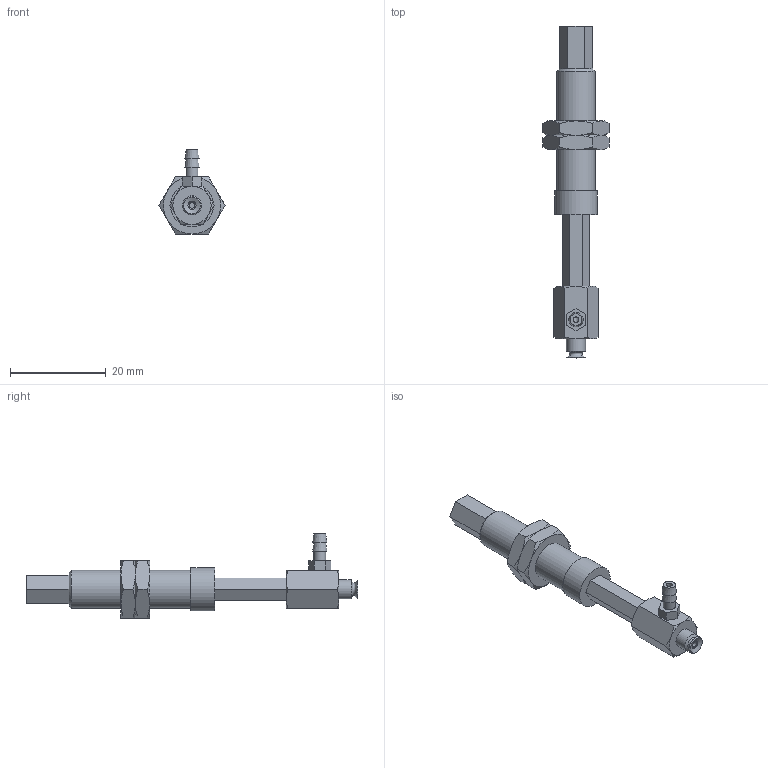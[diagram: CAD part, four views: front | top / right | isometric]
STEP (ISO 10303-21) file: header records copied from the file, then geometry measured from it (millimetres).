
FILE_DESCRIPTION(('STEP AP203'),'1');
FILE_NAME('-T.stp','2025-04-10T02:37:44',(' '),(' '),'Spatial InterOp 3D',' ',' ');
FILE_SCHEMA(('CONFIG_CONTROL_DESIGN'));
Length unit declared in the file: millimetre
Products named in the file (7): BNABPFYH-3.5A-15-※-T; CONNECTOR-H-3.5A-15; Nut-3.5A-15-h; NAPFTH-3.5A-15-FBODY; NAPFTH-3.5A-15-MBODY; BPFG-3.5A-※; T (2)
Assembly tree (7 placements, depth 2):
  BNABPFYH-3.5A-15-※-T
    CONNECTOR-H-3.5A-15
    Nut-3.5A-15-h  x2
    NAPFTH-3.5A-15-FBODY
    NAPFTH-3.5A-15-MBODY
    BPFG-3.5A-※
    T (2)
Bounding box: 13.86 x 69.5 x 17.6 mm (x, y, z)
Volume: 3286.7 mm3; surface area: 4041.3 mm2
Topology: 7 solids, 7 shells, 155 faces, 333 edges, 204 vertices
Faces by surface type: plane 76, cone 54, cylinder 17, torus 7, bspline 1
Full cylindrical faces by diameter (mm): 1.2 x3, 2 x2, 2.459 x2, 2.5 x1, 3 x4, 4 x1, 7.188 x2, 8 x1, 9 x1
Entity records: 3925 total; most frequent: CARTESIAN_POINT 919, DIRECTION 546, ORIENTED_EDGE 480, EDGE_CURVE 240, AXIS2_PLACEMENT_3D 221, EDGE_LOOP 194, VERTEX_POINT 170, FACE_OUTER_BOUND 156
